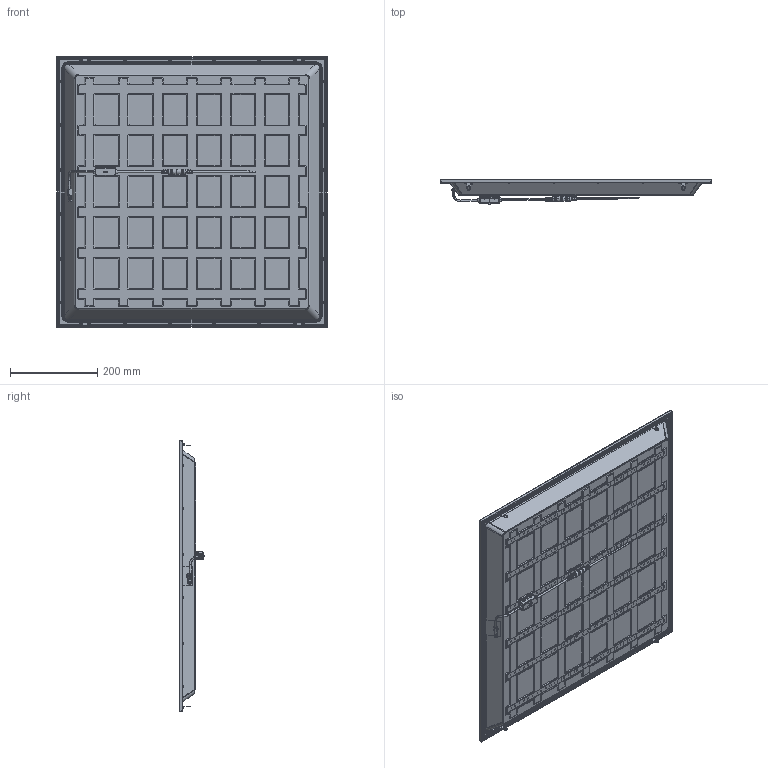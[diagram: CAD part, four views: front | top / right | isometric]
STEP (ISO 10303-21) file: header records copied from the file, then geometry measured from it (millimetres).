
FILE_DESCRIPTION(/* description */ (''),/* implementation_level */ '2;1');
FILE_NAME(/* name */ '929003433006 sh10 20240112.stp',/* time_stamp */ '2024-01-12T17:31:32+08:00',/* author */ (''),/* organization */ (''),/* preprocessor_version */ 'ST-DEVELOPER v19.4',/* originating_system */ 'SIEMENS PLM Software NX2212.8901',/* authorisation */ '');
FILE_SCHEMA (('AUTOMOTIVE_DESIGN { 1 0 10303 214 3 1 1 1 }'));
Products named in the file (1): 929003433006 sh10 20230923_step_objects
Bounding box: 620 x 58.23 x 620 mm (x, y, z)
Volume: 866029.3 mm3; surface area: 3276971.7 mm2
Topology: 54 solids, 54 shells, 5121 faces, 13168 edges, 8530 vertices
Faces by surface type: plane 2888, cylinder 1793, bspline 142, cone 140, torus 102, sphere 56
Entity records: 182670 total; most frequent: CARTESIAN_POINT 63988, ORIENTED_EDGE 26320, DIRECTION 22402, EDGE_CURVE 13160, VERTEX_POINT 8530, LINE 7868, VECTOR 7868, AXIS2_PLACEMENT_3D 7267
